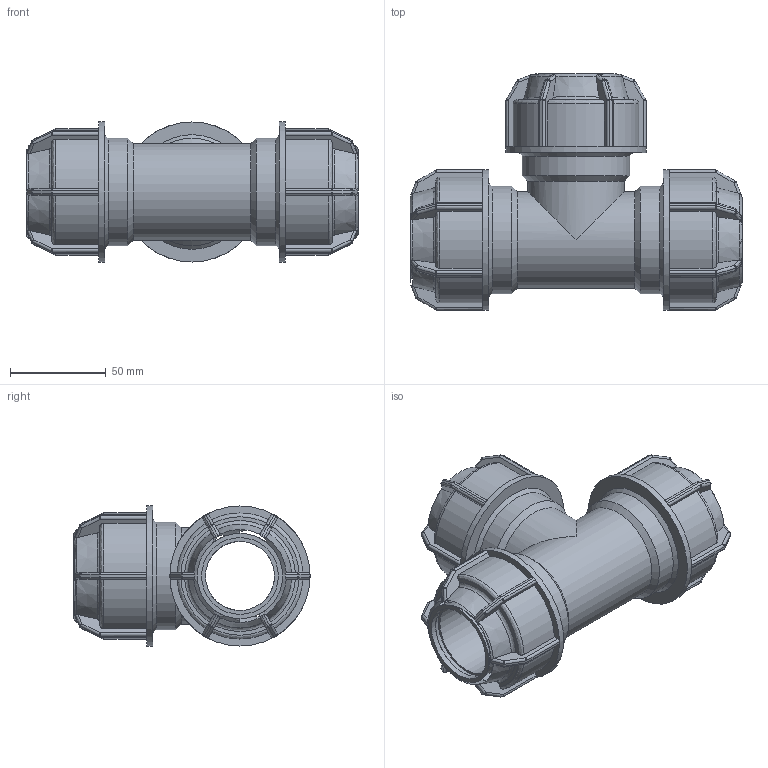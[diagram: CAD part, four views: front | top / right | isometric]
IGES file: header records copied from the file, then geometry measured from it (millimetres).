
Global section: file name: 140400040.ipt; native system: Autodesk Inventor 2015; preprocessor: unknown; author: KIM; date: 20180409.131033; units: millimetre
Bounding box: 173 x 123 x 73 mm (x, y, z)
Volume: 336089.3 mm3; surface area: 88433.4 mm2
Topology: 1 solids, 1 shells, 604 faces, 1448 edges, 844 vertices
Faces by surface type: plane 288, cylinder 170, sphere 72, revolution 50, cone 24
Full cylindrical faces by diameter (mm): 50.4 x2, 56 x3, 73 x3
